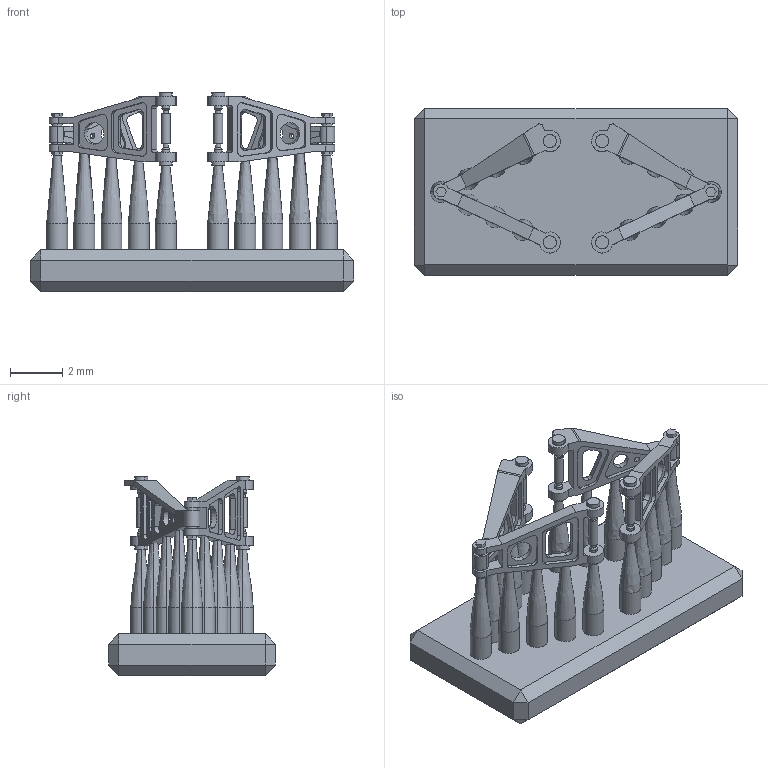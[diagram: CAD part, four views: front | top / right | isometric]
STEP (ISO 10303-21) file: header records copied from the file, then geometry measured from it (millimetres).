
FILE_DESCRIPTION(/* description */ (''),/* implementation_level */ '2;1');
FILE_NAME(/* name */ 'F6B9E9~1',/* time_stamp */ '2021-04-27T22:15:23+02:00',/* author */ (''),/* organization */ (''),/* preprocessor_version */ 'ST-DEVELOPER v16.5',/* originating_system */ '',/* authorisation */ '');
FILE_SCHEMA (('CONFIG_CONTROL_DESIGN'));
Length unit declared in the file: millimetre
Products named in the file (1): Document
Bounding box: 12.4 x 6.4 x 7.63 mm (x, y, z)
Volume: 152.8 mm3; surface area: 429.6 mm2
Topology: 1 solids, 1 shells, 532 faces, 1378 edges, 872 vertices
Faces by surface type: cylinder 228, plane 226, bspline 78
Entity records: 15970 total; most frequent: CARTESIAN_POINT 7045, ORIENTED_EDGE 2740, EDGE_CURVE 1370, VERTEX_POINT 878, B_SPLINE_CURVE_WITH_KNOTS 684, EDGE_LOOP 628, ADVANCED_FACE 532, FACE_OUTER_BOUND 532
